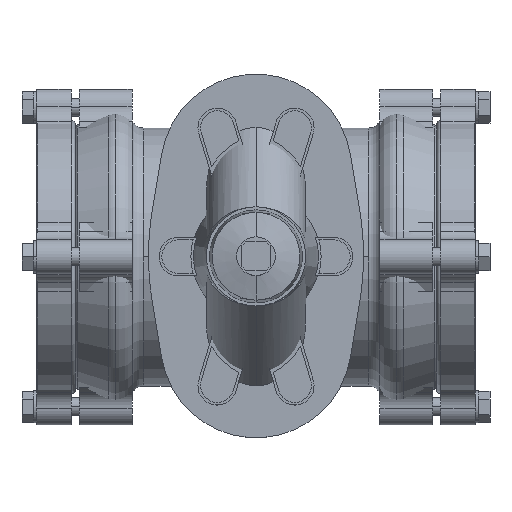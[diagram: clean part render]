
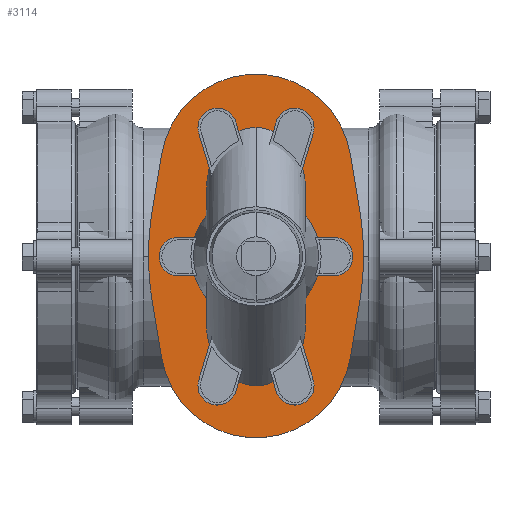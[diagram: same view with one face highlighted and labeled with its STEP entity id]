
A CAD part, top view. The second image highlights one B-rep face of the part: STEP entity #3114.
In plain terms, the highlighted planar face has unit normal (0, 0, 1).
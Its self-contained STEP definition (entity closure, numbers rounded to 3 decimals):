
#3114=ADVANCED_FACE('',(#5735),#5736,.T.);
#5735=FACE_OUTER_BOUND('',#8649,.T.);
#5736=PLANE('',#8650);
#8649=EDGE_LOOP('',(#14468,#14469,#14470,#14471,#14472,#14473,#14474,#14475,#14476,#14477,#14478));
#8650=AXIS2_PLACEMENT_3D('',#14479,#14480,#14481);
#14468=ORIENTED_EDGE('',*,*,#16010,.T.);
#14469=ORIENTED_EDGE('',*,*,#17572,.T.);
#14470=ORIENTED_EDGE('',*,*,#15581,.T.);
#14471=ORIENTED_EDGE('',*,*,#16015,.T.);
#14472=ORIENTED_EDGE('',*,*,#17865,.T.);
#14473=ORIENTED_EDGE('',*,*,#15877,.T.);
#14474=ORIENTED_EDGE('',*,*,#17775,.T.);
#14475=ORIENTED_EDGE('',*,*,#17683,.T.);
#14476=ORIENTED_EDGE('',*,*,#17542,.T.);
#14477=ORIENTED_EDGE('',*,*,#17743,.T.);
#14478=ORIENTED_EDGE('',*,*,#16514,.T.);
#14479=CARTESIAN_POINT('',(49.984,0.505,224.0));
#14480=DIRECTION('',(0.0,0.0,1.0));
#14481=DIRECTION('',(1.0,0.0,0.0));
#15581=EDGE_CURVE('',#18151,#18156,#18158,.T.);
#15877=EDGE_CURVE('',#18682,#18680,#18683,.T.);
#16010=EDGE_CURVE('',#18907,#18905,#18908,.T.);
#16015=EDGE_CURVE('',#18156,#18913,#18915,.T.);
#16514=EDGE_CURVE('',#19716,#18907,#19717,.T.);
#17542=EDGE_CURVE('',#21149,#21147,#21150,.T.);
#17572=EDGE_CURVE('',#18905,#18151,#21182,.T.);
#17683=EDGE_CURVE('',#21312,#21149,#21314,.T.);
#17743=EDGE_CURVE('',#21147,#19716,#21381,.T.);
#17775=EDGE_CURVE('',#18680,#21312,#21413,.T.);
#17865=EDGE_CURVE('',#18913,#18682,#21505,.T.);
#18151=VERTEX_POINT('',#21814);
#18156=VERTEX_POINT('',#21820);
#18158=CIRCLE('',#21823,224.047);
#18680=VERTEX_POINT('',#22475);
#18682=VERTEX_POINT('',#22478);
#18683=LINE('',#22479,#22480);
#18905=VERTEX_POINT('',#22764);
#18907=VERTEX_POINT('',#22767);
#18908=LINE('',#22768,#22769);
#18913=VERTEX_POINT('',#22776);
#18915=LINE('',#22779,#22780);
#19716=VERTEX_POINT('',#23787);
#19717=CIRCLE('',#23788,74.);
#21147=VERTEX_POINT('',#25660);
#21149=VERTEX_POINT('',#25663);
#21150=CIRCLE('',#25664,222.828);
#21182=CIRCLE('',#25705,224.047);
#21312=VERTEX_POINT('',#25872);
#21314=CIRCLE('',#25875,222.828);
#21381=LINE('',#25962,#25963);
#21413=CIRCLE('',#26003,222.828);
#21505=CIRCLE('',#26117,74.);
#21814=CARTESIAN_POINT('',(133.251,0.505,224.0));
#21820=CARTESIAN_POINT('',(130.054,38.214,224.0));
#21823=AXIS2_PLACEMENT_3D('',#26443,#26444,#26445);
#22475=CARTESIAN_POINT('',(-30.056,38.206,224.0));
#22478=CARTESIAN_POINT('',(-22.944,79.855,224.0));
#22479=CARTESIAN_POINT('',(-22.944,79.855,224.0));
#22480=VECTOR('',#26892,1.0);
#22764=CARTESIAN_POINT('',(130.054,-37.205,224.0));
#22767=CARTESIAN_POINT('',(122.944,-78.845,224.0));
#22768=CARTESIAN_POINT('',(122.944,-78.845,224.0));
#22769=VECTOR('',#27073,1.0);
#22776=CARTESIAN_POINT('',(122.944,79.855,224.0));
#22779=CARTESIAN_POINT('',(130.054,38.214,224.0));
#22780=VECTOR('',#27077,1.0);
#23787=CARTESIAN_POINT('',(-22.944,-78.845,224.0));
#23788=AXIS2_PLACEMENT_3D('',#27809,#27810,#27811);
#25660=CARTESIAN_POINT('',(-30.054,-37.205,224.0));
#25663=CARTESIAN_POINT('',(-33.232,-0.394,224.0));
#25664=AXIS2_PLACEMENT_3D('',#29044,#29045,#29046);
#25705=AXIS2_PLACEMENT_3D('',#29074,#29075,#29076);
#25872=CARTESIAN_POINT('',(-33.235,0.701,224.0));
#25875=AXIS2_PLACEMENT_3D('',#29199,#29200,#29201);
#25962=CARTESIAN_POINT('',(-30.054,-37.205,224.0));
#25963=VECTOR('',#29246,1.0);
#26003=AXIS2_PLACEMENT_3D('',#29258,#29259,#29260);
#26117=AXIS2_PLACEMENT_3D('',#29310,#29311,#29312);
#26443=CARTESIAN_POINT('',(-90.796,0.505,224.0));
#26444=DIRECTION('',(0.0,0.0,1.0));
#26445=DIRECTION('',(1.0,0.0,0.0));
#26892=DIRECTION('',(-0.168,-0.986,0.0));
#27073=DIRECTION('',(0.168,0.986,0.0));
#27077=DIRECTION('',(-0.168,0.986,0.0));
#27809=CARTESIAN_POINT('',(50.,-66.39,224.0));
#27810=DIRECTION('',(0.0,0.0,1.0));
#27811=DIRECTION('',(1.0,0.0,0.0));
#29044=CARTESIAN_POINT('',(189.595,0.299,224.0));
#29045=DIRECTION('',(0.0,0.0,1.0));
#29046=DIRECTION('',(1.0,0.0,0.0));
#29074=CARTESIAN_POINT('',(-90.796,0.505,224.0));
#29075=DIRECTION('',(0.0,0.0,1.0));
#29076=DIRECTION('',(1.0,0.0,0.0));
#29199=CARTESIAN_POINT('',(189.593,0.701,224.0));
#29200=DIRECTION('',(0.0,0.0,1.0));
#29201=DIRECTION('',(1.0,0.0,0.0));
#29246=DIRECTION('',(0.168,-0.986,0.0));
#29258=CARTESIAN_POINT('',(189.593,0.701,224.0));
#29259=DIRECTION('',(0.0,0.0,1.0));
#29260=DIRECTION('',(1.0,0.0,0.0));
#29310=CARTESIAN_POINT('',(50.,67.4,224.0));
#29311=DIRECTION('',(0.0,0.0,1.0));
#29312=DIRECTION('',(1.0,0.0,0.0));
